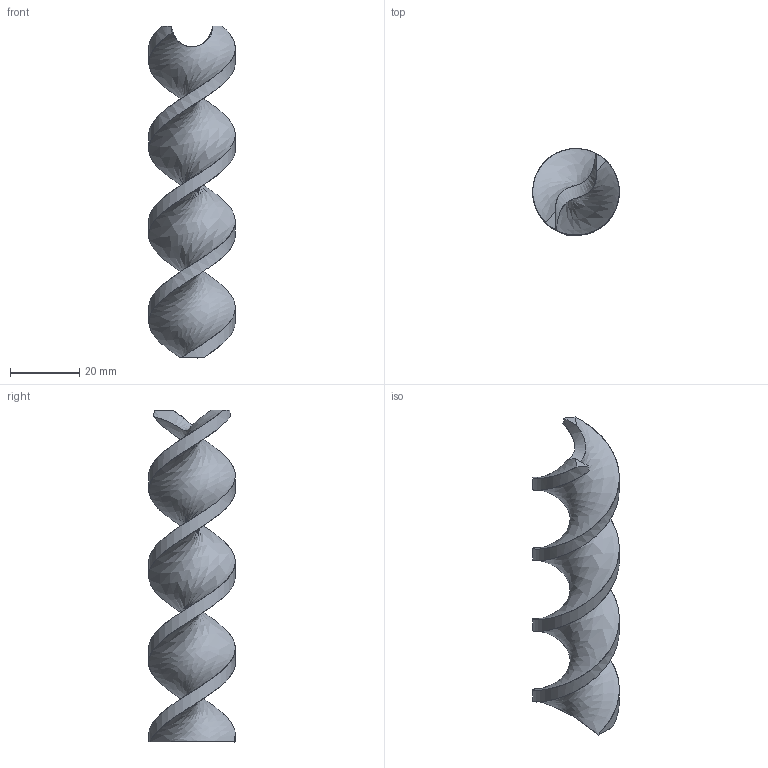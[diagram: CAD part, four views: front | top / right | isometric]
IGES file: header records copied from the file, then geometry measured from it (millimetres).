
Global section: file name: E:\UnigraphicsGraphicData\MISUMI_MOLD-PARTS\NX\3d_wrcbn25-96_00651_r00.igs; native system: NX V5.0; preprocessor: UGS NX IGES V5.0; author: MISUMI; date: 20101115.183708; units: millimetre
Bounding box: 25.07 x 25.07 x 96 mm (x, y, z)
Surface area: 7511.5 mm2 (no closed solid volume)
Topology: 0 solids, 0 shells, 8 faces, 64 edges, 64 vertices
Faces by surface type: bspline 8
